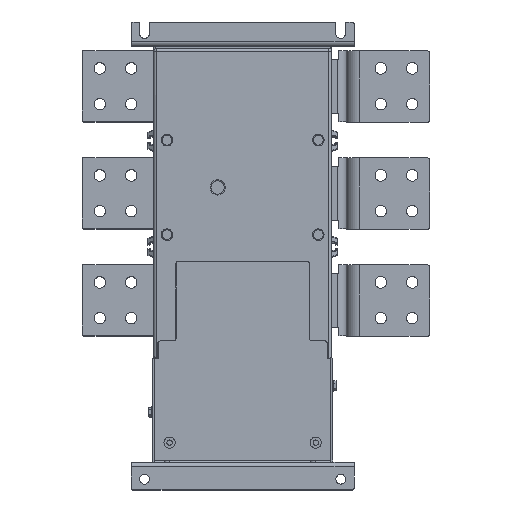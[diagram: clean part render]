
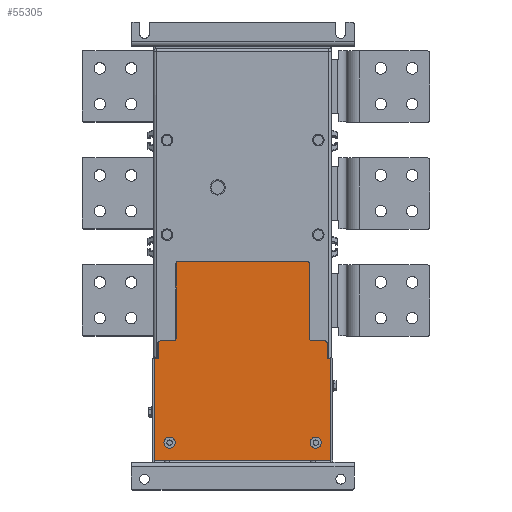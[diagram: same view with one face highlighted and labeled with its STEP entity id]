
A CAD part, top view. The second image highlights one B-rep face of the part: STEP entity #55305.
In plain terms, the highlighted planar face has unit normal (0, 0, 1).
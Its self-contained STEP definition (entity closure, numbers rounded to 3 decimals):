
#52933=DIRECTION('',(0.,-1.,0.));
#52934=VECTOR('',#52933,83.32);
#52935=CARTESIAN_POINT('',(486.803,-164.835,
6.));
#52936=LINE('',#52935,#52934);
#52981=DIRECTION('',(0.,1.,0.));
#52982=VECTOR('',#52981,83.32);
#52983=CARTESIAN_POINT('',(635.992,-248.156,
6.));
#52984=LINE('',#52983,#52982);
#52985=CARTESIAN_POINT('',(489.803,-164.835,
6.));
#52986=DIRECTION('',(0.,0.,-1.));
#52987=DIRECTION('',(-1.,0.,0.));
#52988=AXIS2_PLACEMENT_3D('',#52985,#52986,#52987);
#52990=CARTESIAN_POINT('',(632.992,-164.835,
6.));
#52991=DIRECTION('',(0.,0.,-1.));
#52992=DIRECTION('',(0.,1.,0.));
#52993=AXIS2_PLACEMENT_3D('',#52990,#52991,#52992);
#52995=CARTESIAN_POINT('',(638.992,-248.156,
6.));
#52996=DIRECTION('',(0.,0.,1.));
#52997=DIRECTION('',(-1.,0.,0.));
#52998=AXIS2_PLACEMENT_3D('',#52995,#52996,#52997);
#53000=CARTESIAN_POINT('',(653.498,-253.956,
6.));
#53001=DIRECTION('',(0.,0.,-1.));
#53002=DIRECTION('',(0.,1.,0.));
#53003=AXIS2_PLACEMENT_3D('',#53000,#53001,#53002);
#53005=CARTESIAN_POINT('',(659.148,-384.249,
6.));
#53006=DIRECTION('',(0.,0.,-1.));
#53007=DIRECTION('',(1.,0.,0.));
#53008=AXIS2_PLACEMENT_3D('',#53005,#53006,#53007);
#53010=CARTESIAN_POINT('',(463.648,-384.249,
6.));
#53011=DIRECTION('',(0.,0.,-1.));
#53012=DIRECTION('',(0.,-1.,0.));
#53013=AXIS2_PLACEMENT_3D('',#53010,#53011,#53012);
#53015=CARTESIAN_POINT('',(469.297,-253.956,
6.));
#53016=DIRECTION('',(0.,0.,-1.));
#53017=DIRECTION('',(-1.,0.,0.));
#53018=AXIS2_PLACEMENT_3D('',#53015,#53016,#53017);
#53020=CARTESIAN_POINT('',(483.803,-248.156,
6.));
#53021=DIRECTION('',(0.,0.,1.));
#53022=DIRECTION('',(0.,-1.,0.));
#53023=AXIS2_PLACEMENT_3D('',#53020,#53021,#53022);
#53025=CARTESIAN_POINT('',(479.398,-365.249,
6.));
#53026=DIRECTION('',(0.,0.,1.));
#53027=DIRECTION('',(1.,0.,0.));
#53028=AXIS2_PLACEMENT_3D('',#53025,#53026,#53027);
#53030=CARTESIAN_POINT('',(479.398,-365.249,
6.));
#53031=DIRECTION('',(0.,0.,1.));
#53032=DIRECTION('',(-1.,0.,0.));
#53033=AXIS2_PLACEMENT_3D('',#53030,#53031,#53032);
#53035=CARTESIAN_POINT('',(643.398,-365.249,
6.));
#53036=DIRECTION('',(0.,0.,1.));
#53037=DIRECTION('',(1.,0.,0.));
#53038=AXIS2_PLACEMENT_3D('',#53035,#53036,#53037);
#53040=CARTESIAN_POINT('',(643.398,-365.249,
6.));
#53041=DIRECTION('',(0.,0.,1.));
#53042=DIRECTION('',(-1.,0.,0.));
#53043=AXIS2_PLACEMENT_3D('',#53040,#53041,#53042);
#53053=DIRECTION('',(-1.,0.,0.));
#53054=VECTOR('',#53053,143.189);
#53055=CARTESIAN_POINT('',(632.992,-161.835,
6.));
#53056=LINE('',#53055,#53054);
#53081=DIRECTION('',(-1.,0.,0.));
#53082=VECTOR('',#53081,14.506);
#53083=CARTESIAN_POINT('',(653.498,-251.156,
6.));
#53084=LINE('',#53083,#53082);
#53093=DIRECTION('',(0.,1.,0.));
#53094=VECTOR('',#53093,17.193);
#53095=CARTESIAN_POINT('',(656.298,-271.149,
6.));
#53096=LINE('',#53095,#53094);
#53097=DIRECTION('',(-1.,0.,0.));
#53098=VECTOR('',#53097,3.849);
#53099=CARTESIAN_POINT('',(660.148,-271.149,
6.));
#53100=LINE('',#53099,#53098);
#53117=DIRECTION('',(0.,1.,0.));
#53118=VECTOR('',#53117,113.1);
#53119=CARTESIAN_POINT('',(660.148,-384.249,
6.));
#53120=LINE('',#53119,#53118);
#53320=DIRECTION('',(0.,-1.,0.));
#53321=VECTOR('',#53320,113.1);
#53322=CARTESIAN_POINT('',(462.648,-271.149,
6.));
#53323=LINE('',#53322,#53321);
#53376=DIRECTION('',(-1.,0.,0.));
#53377=VECTOR('',#53376,3.849);
#53378=CARTESIAN_POINT('',(466.497,-271.149,
6.));
#53379=LINE('',#53378,#53377);
#53388=DIRECTION('',(0.,-1.,0.));
#53389=VECTOR('',#53388,17.193);
#53390=CARTESIAN_POINT('',(466.497,-253.956,
6.));
#53391=LINE('',#53390,#53389);
#53408=DIRECTION('',(-1.,0.,0.));
#53409=VECTOR('',#53408,14.506);
#53410=CARTESIAN_POINT('',(483.803,-251.156,
6.));
#53411=LINE('',#53410,#53409);
#53420=DIRECTION('',(1.,0.,0.));
#53421=VECTOR('',#53420,195.5);
#53422=CARTESIAN_POINT('',(463.648,-385.249,
6.));
#53423=LINE('',#53422,#53421);
#54224=CARTESIAN_POINT('',(486.803,-248.156,
6.));
#54225=VERTEX_POINT('',#54224);
#54226=CARTESIAN_POINT('',(483.803,-251.156,
6.));
#54227=VERTEX_POINT('',#54226);
#54232=CARTESIAN_POINT('',(486.803,-164.835,
6.));
#54233=VERTEX_POINT('',#54232);
#54246=CARTESIAN_POINT('',(635.992,-248.156,
6.));
#54247=CARTESIAN_POINT('',(635.992,-164.835,
6.));
#54248=VERTEX_POINT('',#54246);
#54249=VERTEX_POINT('',#54247);
#54250=CARTESIAN_POINT('',(489.803,-161.835,
6.));
#54251=VERTEX_POINT('',#54250);
#54252=CARTESIAN_POINT('',(632.992,-161.835,
6.));
#54253=VERTEX_POINT('',#54252);
#54254=CARTESIAN_POINT('',(638.992,-251.156,
6.));
#54255=VERTEX_POINT('',#54254);
#54256=CARTESIAN_POINT('',(653.498,-251.156,
6.));
#54257=VERTEX_POINT('',#54256);
#54258=CARTESIAN_POINT('',(656.298,-253.956,
6.));
#54259=VERTEX_POINT('',#54258);
#54260=CARTESIAN_POINT('',(656.298,-271.149,
6.));
#54261=VERTEX_POINT('',#54260);
#54262=CARTESIAN_POINT('',(660.148,-271.149,
6.));
#54263=VERTEX_POINT('',#54262);
#54264=CARTESIAN_POINT('',(660.148,-384.249,
6.));
#54265=VERTEX_POINT('',#54264);
#54266=CARTESIAN_POINT('',(659.148,-385.249,
6.));
#54267=VERTEX_POINT('',#54266);
#54268=CARTESIAN_POINT('',(463.648,-385.249,
6.));
#54269=VERTEX_POINT('',#54268);
#54270=CARTESIAN_POINT('',(462.648,-384.249,
6.));
#54271=VERTEX_POINT('',#54270);
#54272=CARTESIAN_POINT('',(462.648,-271.149,
6.));
#54273=VERTEX_POINT('',#54272);
#54274=CARTESIAN_POINT('',(466.497,-271.149,
6.));
#54275=VERTEX_POINT('',#54274);
#54276=CARTESIAN_POINT('',(466.497,-253.956,
6.));
#54277=VERTEX_POINT('',#54276);
#54278=CARTESIAN_POINT('',(469.297,-251.156,
6.));
#54279=VERTEX_POINT('',#54278);
#54280=CARTESIAN_POINT('',(485.648,-365.249,
6.));
#54281=CARTESIAN_POINT('',(473.148,-365.249,
6.));
#54282=VERTEX_POINT('',#54280);
#54283=VERTEX_POINT('',#54281);
#54284=CARTESIAN_POINT('',(649.648,-365.249,
6.));
#54285=CARTESIAN_POINT('',(637.148,-365.249,
6.));
#54286=VERTEX_POINT('',#54284);
#54287=VERTEX_POINT('',#54285);
#55249=CARTESIAN_POINT('',(458.698,-156.497,
6.));
#55250=DIRECTION('',(0.,0.,-1.));
#55251=DIRECTION('',(-1.,0.,0.));
#55252=AXIS2_PLACEMENT_3D('',#55249,#55250,#55251);
#55253=PLANE('',#55252);
#55254=ORIENTED_EDGE('',*,*,#55164,.F.);
#55256=ORIENTED_EDGE('',*,*,#55255,.T.);
#55258=ORIENTED_EDGE('',*,*,#55257,.F.);
#55260=ORIENTED_EDGE('',*,*,#55259,.T.);
#55261=ORIENTED_EDGE('',*,*,#55237,.F.);
#55263=ORIENTED_EDGE('',*,*,#55262,.T.);
#55265=ORIENTED_EDGE('',*,*,#55264,.F.);
#55267=ORIENTED_EDGE('',*,*,#55266,.T.);
#55269=ORIENTED_EDGE('',*,*,#55268,.F.);
#55271=ORIENTED_EDGE('',*,*,#55270,.F.);
#55273=ORIENTED_EDGE('',*,*,#55272,.F.);
#55275=ORIENTED_EDGE('',*,*,#55274,.T.);
#55277=ORIENTED_EDGE('',*,*,#55276,.F.);
#55279=ORIENTED_EDGE('',*,*,#55278,.T.);
#55281=ORIENTED_EDGE('',*,*,#55280,.F.);
#55283=ORIENTED_EDGE('',*,*,#55282,.F.);
#55285=ORIENTED_EDGE('',*,*,#55284,.F.);
#55287=ORIENTED_EDGE('',*,*,#55286,.T.);
#55289=ORIENTED_EDGE('',*,*,#55288,.F.);
#55290=ORIENTED_EDGE('',*,*,#55144,.T.);
#55291=EDGE_LOOP('',(#55254,#55256,#55258,#55260,#55261,#55263,#55265,#55267,
#55269,#55271,#55273,#55275,#55277,#55279,#55281,#55283,#55285,#55287,#55289,
#55290));
#55292=FACE_OUTER_BOUND('',#55291,.F.);
#55294=ORIENTED_EDGE('',*,*,#55293,.T.);
#55296=ORIENTED_EDGE('',*,*,#55295,.T.);
#55297=EDGE_LOOP('',(#55294,#55296));
#55298=FACE_BOUND('',#55297,.F.);
#55300=ORIENTED_EDGE('',*,*,#55299,.T.);
#55302=ORIENTED_EDGE('',*,*,#55301,.T.);
#55303=EDGE_LOOP('',(#55300,#55302));
#55304=FACE_BOUND('',#55303,.F.);
#52989=CIRCLE('',#52988,3.);
#52994=CIRCLE('',#52993,3.);
#52999=CIRCLE('',#52998,3.);
#53004=CIRCLE('',#53003,2.8);
#53009=CIRCLE('',#53008,1.);
#53014=CIRCLE('',#53013,1.);
#53019=CIRCLE('',#53018,2.8);
#53024=CIRCLE('',#53023,3.);
#53029=CIRCLE('',#53028,6.25);
#53034=CIRCLE('',#53033,6.25);
#53039=CIRCLE('',#53038,6.25);
#53044=CIRCLE('',#53043,6.25);
#55144=EDGE_CURVE('',#54227,#54225,#53024,.T.);
#55164=EDGE_CURVE('',#54233,#54225,#52936,.T.);
#55237=EDGE_CURVE('',#54248,#54249,#52984,.T.);
#55255=EDGE_CURVE('',#54233,#54251,#52989,.T.);
#55257=EDGE_CURVE('',#54253,#54251,#53056,.T.);
#55259=EDGE_CURVE('',#54253,#54249,#52994,.T.);
#55262=EDGE_CURVE('',#54248,#54255,#52999,.T.);
#55264=EDGE_CURVE('',#54257,#54255,#53084,.T.);
#55266=EDGE_CURVE('',#54257,#54259,#53004,.T.);
#55268=EDGE_CURVE('',#54261,#54259,#53096,.T.);
#55270=EDGE_CURVE('',#54263,#54261,#53100,.T.);
#55272=EDGE_CURVE('',#54265,#54263,#53120,.T.);
#55274=EDGE_CURVE('',#54265,#54267,#53009,.T.);
#55276=EDGE_CURVE('',#54269,#54267,#53423,.T.);
#55278=EDGE_CURVE('',#54269,#54271,#53014,.T.);
#55280=EDGE_CURVE('',#54273,#54271,#53323,.T.);
#55282=EDGE_CURVE('',#54275,#54273,#53379,.T.);
#55284=EDGE_CURVE('',#54277,#54275,#53391,.T.);
#55286=EDGE_CURVE('',#54277,#54279,#53019,.T.);
#55288=EDGE_CURVE('',#54227,#54279,#53411,.T.);
#55293=EDGE_CURVE('',#54282,#54283,#53029,.T.);
#55295=EDGE_CURVE('',#54283,#54282,#53034,.T.);
#55299=EDGE_CURVE('',#54286,#54287,#53039,.T.);
#55301=EDGE_CURVE('',#54287,#54286,#53044,.T.);
#55305=ADVANCED_FACE('',(#55292,#55298,#55304),#55253,.F.);
